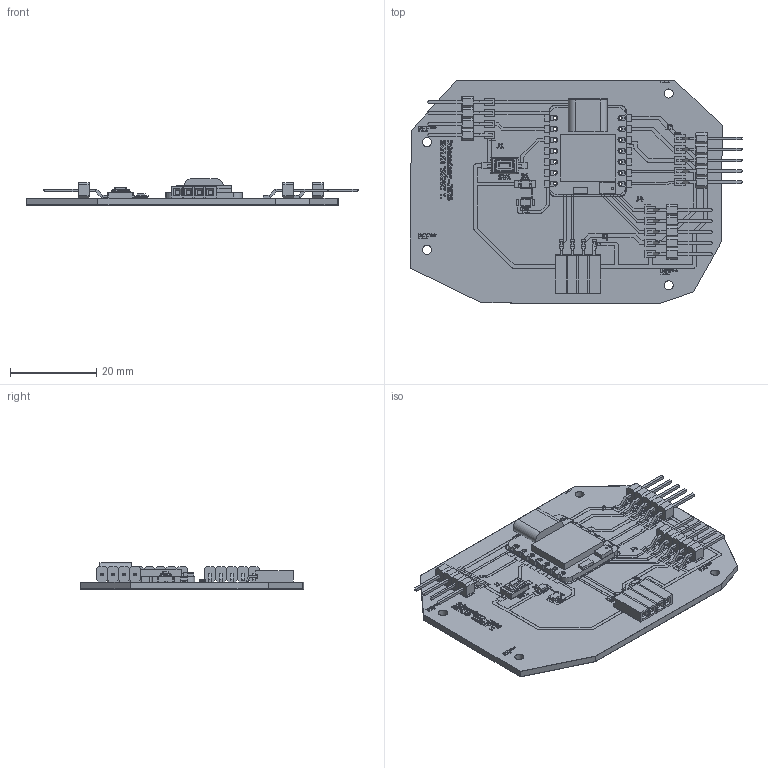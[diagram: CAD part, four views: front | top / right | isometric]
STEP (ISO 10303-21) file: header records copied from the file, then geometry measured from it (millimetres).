
FILE_DESCRIPTION(('KiCad electronic assembly'),'2;1');
FILE_NAME('FP_Main_FLAT3D.step','2026-05-21T06:42:47',('Pcbnew'),( 'Kicad'),'Open CASCADE STEP processor 7.8','KiCad to STEP converter' ,'Unknown');
FILE_SCHEMA(('AUTOMOTIVE_DESIGN { 1 0 10303 214 1 1 1 1 }'));
Length unit declared in the file: millimetre
Products named in the file (52): FP_Main_FLAT3D 1; Header_SMD_01x05_P2.54mm_Horizontal_Male; FP_Main_FLAT3D 1.1.1; FP_Main_FLAT3D 1.1.2; PinSocket-01x04_P2.54mm_Horizontal_SMD; FP_Main_FLAT3D 1.2.1; FP_Main_FLAT3D 1.2.2; Switch_CnK-PTS636SM25FSMTR; LeadA; LeadB; Cover; Button; Seeed_XIAO-nRF52840_Sense; SoC_nRF_Sense; Mic_nRF_Sense; Antenna_nRF_Sense; XIAO_Generic; Board; USB; Contact; Contact Clones; Body007; Body008; Body009; Body010; Body011; Body012; Body013; Body014; Body015; Body016; Body017; Body018; Body019; Header_SMD_01x04_P2.54mm_Horizontal_Male; FP_Main_FLAT3D 1.5.1; FP_Main_FLAT3D 1.5.2; Resistor-1206; Ceramic; Contacts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
Assembly tree (52 placements, depth 5):
  FP_Main_FLAT3D 1
    Header_SMD_01x05_P2.54mm_Horizontal_Male  x2
      FP_Main_FLAT3D 1.1.1
      FP_Main_FLAT3D 1.1.2
    PinSocket-01x04_P2.54mm_Horizontal_SMD
      FP_Main_FLAT3D 1.2.1
      FP_Main_FLAT3D 1.2.2
    Switch_CnK-PTS636SM25FSMTR
      LeadA
      LeadB
      Cover
      Button
    Seeed_XIAO-nRF52840_Sense
      SoC_nRF_Sense
      Mic_nRF_Sense
      Antenna_nRF_Sense
      XIAO_Generic
        Board
        USB
        Contact
        Contact Clones
          Body007
          Body008
          Body009
          Body010
          Body011
          Body012
          Body013
          Body014
          Body015
          Body016
          Body017
          Body018
          Body019
    Header_SMD_01x04_P2.54mm_Horizontal_Male
      FP_Main_FLAT3D 1.5.1
      FP_Main_FLAT3D 1.5.2
    Resistor-1206
      Ceramic
      Contacts
      Contacts (Mirror #1)
      Overcoat
    LED-1206
      Base
      Emmiter
      Contact_1
      Contact_2
    FP_Main_copper
    FP_Main_silkscreen
    FP_Main_soldermask
    FP_Main_soldermask
    FP_Main_PCB
Bounding box: 77.05 x 51.83 x 6.11 mm (x, y, z)
Volume: 6753 mm3; surface area: 19093.3 mm2
Topology: 120 solids, 205 shells, 2534 faces, 7692 edges, 5511 vertices
Faces by surface type: plane 2083, cylinder 407, revolution 28, bspline 8, sphere 8
Full cylindrical faces by diameter (mm): 0.5 x1, 0.7 x14, 0.75 x14, 0.8 x56, 1 x1, 1.2 x6, 1.6 x13, 2.1 x4
Entity records: 83332 total; most frequent: CARTESIAN_POINT 15402, DIRECTION 13218, ORIENTED_EDGE 12925, EDGE_CURVE 7234, LINE 5934, VECTOR 5934, VERTEX_POINT 5251, AXIS2_PLACEMENT_3D 3633
